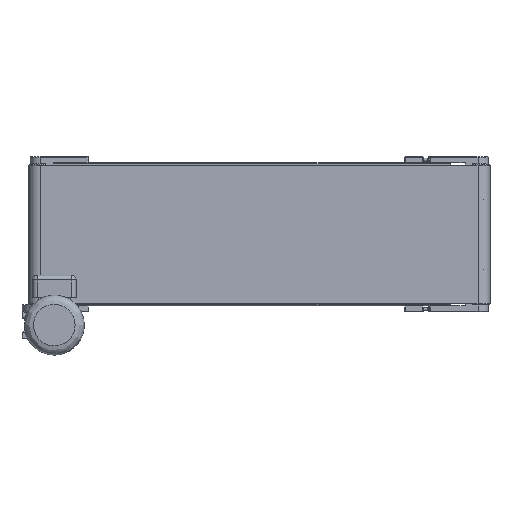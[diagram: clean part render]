
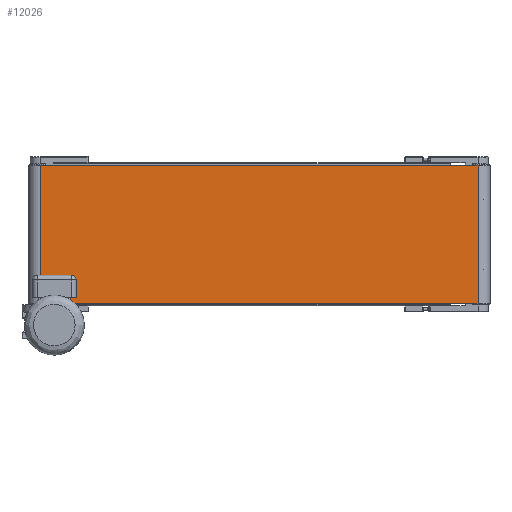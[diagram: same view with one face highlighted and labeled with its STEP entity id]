
A CAD part, top view. The second image highlights one B-rep face of the part: STEP entity #12026.
In plain terms, the highlighted planar face has unit normal (0, 0, 1).
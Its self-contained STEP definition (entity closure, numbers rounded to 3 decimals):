
#2482 = CARTESIAN_POINT ( 'NONE',  ( 26., 300., 26. ) ) ;
#7663 = ORIENTED_EDGE ( 'NONE', *, *, #32014, .F. ) ;
#8789 = ORIENTED_EDGE ( 'NONE', *, *, #10959, .F. ) ;
#10289 = EDGE_CURVE ( 'NONE', #25222, #14095, #37811, .T. ) ;
#10641 = CARTESIAN_POINT ( 'NONE',  ( 26., 0., 26. ) ) ;
#10681 = VECTOR ( 'NONE', #42190, 1000. ) ;
#10959 = EDGE_CURVE ( 'NONE', #29230, #14095, #29246, .T. ) ;
#12026 = ADVANCED_FACE ( 'NONE', ( #18918 ), #38414, .F. ) ;
#14095 = VERTEX_POINT ( 'NONE', #20906 ) ;
#15489 = CARTESIAN_POINT ( 'NONE',  ( 26., 300., 26. ) ) ;
#16278 = CARTESIAN_POINT ( 'NONE',  ( 974., 300., 26. ) ) ;
#16718 = DIRECTION ( 'NONE',  ( 0., -1., 0. ) ) ;
#18254 = CARTESIAN_POINT ( 'NONE',  ( 26., 0., 26. ) ) ;
#18918 = FACE_OUTER_BOUND ( 'NONE', #24293, .T. ) ;
#20857 = CARTESIAN_POINT ( 'NONE',  ( 26., 300., 26. ) ) ;
#20906 = CARTESIAN_POINT ( 'NONE',  ( 974., 0., 26. ) ) ;
#21566 = CARTESIAN_POINT ( 'NONE',  ( 26., 300., 26. ) ) ;
#21595 = AXIS2_PLACEMENT_3D ( 'NONE', #21566, #35172, #25321 ) ;
#22467 = VECTOR ( 'NONE', #16718, 1000. ) ;
#24293 = EDGE_LOOP ( 'NONE', ( #35083, #8789, #7663, #34576 ) ) ;
#25222 = VERTEX_POINT ( 'NONE', #18254 ) ;
#25321 = DIRECTION ( 'NONE',  ( -1., 0., 0. ) ) ;
#25820 = LINE ( 'NONE', #15489, #10681 ) ;
#26506 = VECTOR ( 'NONE', #32745, 1000. ) ;
#28687 = EDGE_CURVE ( 'NONE', #42835, #25222, #30519, .T. ) ;
#29230 = VERTEX_POINT ( 'NONE', #30045 ) ;
#29246 = LINE ( 'NONE', #16278, #26506 ) ;
#30045 = CARTESIAN_POINT ( 'NONE',  ( 974., 300., 26. ) ) ;
#30519 = LINE ( 'NONE', #20857, #22467 ) ;
#32014 = EDGE_CURVE ( 'NONE', #42835, #29230, #25820, .T. ) ;
#32745 = DIRECTION ( 'NONE',  ( 0., -1., 0. ) ) ;
#34576 = ORIENTED_EDGE ( 'NONE', *, *, #28687, .T. ) ;
#35083 = ORIENTED_EDGE ( 'NONE', *, *, #10289, .T. ) ;
#35172 = DIRECTION ( 'NONE',  ( 0., 0., -1. ) ) ;
#37811 = LINE ( 'NONE', #10641, #39690 ) ;
#38414 = PLANE ( 'NONE',  #21595 ) ;
#39690 = VECTOR ( 'NONE', #41301, 1000. ) ;
#41301 = DIRECTION ( 'NONE',  ( 1., 0., 0. ) ) ;
#42190 = DIRECTION ( 'NONE',  ( 1., 0., 0. ) ) ;
#42835 = VERTEX_POINT ( 'NONE', #2482 ) ;
